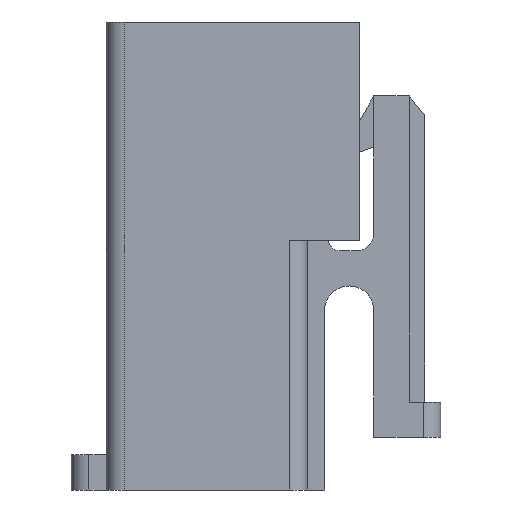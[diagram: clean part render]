
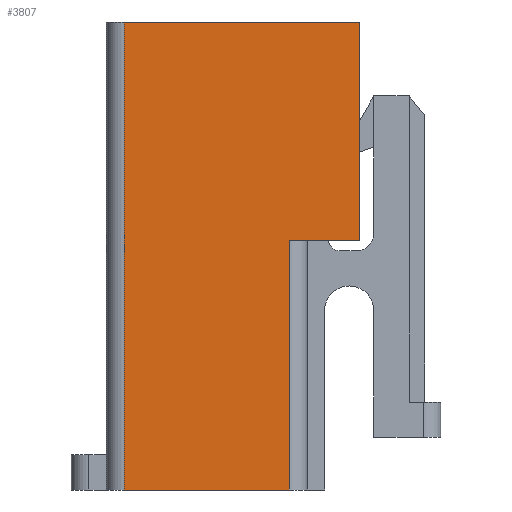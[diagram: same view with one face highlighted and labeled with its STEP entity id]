
A CAD part, left-side view. The second image highlights one B-rep face of the part: STEP entity #3807.
In plain terms, the highlighted planar face has unit normal (-1, 0, 0).
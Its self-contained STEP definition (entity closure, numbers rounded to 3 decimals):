
#366=DIRECTION('',(0.,-1.,0.));
#367=VECTOR('',#366,4.7);
#368=CARTESIAN_POINT('',(-7.89,5.2,0.));
#369=LINE('',#368,#367);
#648=DIRECTION('',(0.,1.,0.));
#649=VECTOR('',#648,6.7);
#650=CARTESIAN_POINT('',(-7.89,-1.5,13.3));
#651=LINE('',#650,#649);
#954=DIRECTION('',(0.,0.,-1.));
#955=VECTOR('',#954,6.2);
#956=CARTESIAN_POINT('',(-7.89,-1.5,13.3));
#957=LINE('',#956,#955);
#998=DIRECTION('',(0.,-1.,0.));
#999=VECTOR('',#998,2.);
#1000=CARTESIAN_POINT('',(-7.89,0.5,7.1));
#1001=LINE('',#1000,#999);
#1007=DIRECTION('',(0.,0.,-1.));
#1008=VECTOR('',#1007,7.1);
#1009=CARTESIAN_POINT('',(-7.89,0.5,7.1));
#1010=LINE('',#1009,#1008);
#1011=DIRECTION('',(0.,0.,-1.));
#1012=VECTOR('',#1011,13.3);
#1013=CARTESIAN_POINT('',(-7.89,5.2,13.3));
#1014=LINE('',#1013,#1012);
#2159=CARTESIAN_POINT('',(-7.89,-1.5,13.3));
#2160=CARTESIAN_POINT('',(-7.89,-1.5,7.1));
#2161=VERTEX_POINT('',#2159);
#2162=VERTEX_POINT('',#2160);
#2256=CARTESIAN_POINT('',(-7.89,0.5,0.));
#2258=VERTEX_POINT('',#2256);
#2259=CARTESIAN_POINT('',(-7.89,0.5,7.1));
#2260=VERTEX_POINT('',#2259);
#2279=CARTESIAN_POINT('',(-7.89,5.2,0.));
#2281=VERTEX_POINT('',#2279);
#2285=CARTESIAN_POINT('',(-7.89,5.2,13.3));
#2286=VERTEX_POINT('',#2285);
#3793=CARTESIAN_POINT('',(-7.89,5.7,0.));
#3794=DIRECTION('',(-1.,0.,0.));
#3795=DIRECTION('',(0.,-1.,0.));
#3796=AXIS2_PLACEMENT_3D('',#3793,#3794,#3795);
#3797=PLANE('',#3796);
#3798=ORIENTED_EDGE('',*,*,#3786,.T.);
#3799=ORIENTED_EDGE('',*,*,#2882,.F.);
#3801=ORIENTED_EDGE('',*,*,#3800,.F.);
#3802=ORIENTED_EDGE('',*,*,#3236,.F.);
#3803=ORIENTED_EDGE('',*,*,#3707,.T.);
#3804=ORIENTED_EDGE('',*,*,#3773,.F.);
#3805=EDGE_LOOP('',(#3798,#3799,#3801,#3802,#3803,#3804));
#3806=FACE_OUTER_BOUND('',#3805,.F.);
#2882=EDGE_CURVE('',#2281,#2258,#369,.T.);
#3236=EDGE_CURVE('',#2161,#2286,#651,.T.);
#3707=EDGE_CURVE('',#2161,#2162,#957,.T.);
#3773=EDGE_CURVE('',#2260,#2162,#1001,.T.);
#3786=EDGE_CURVE('',#2260,#2258,#1010,.T.);
#3800=EDGE_CURVE('',#2286,#2281,#1014,.T.);
#3807=ADVANCED_FACE('',(#3806),#3797,.T.);
